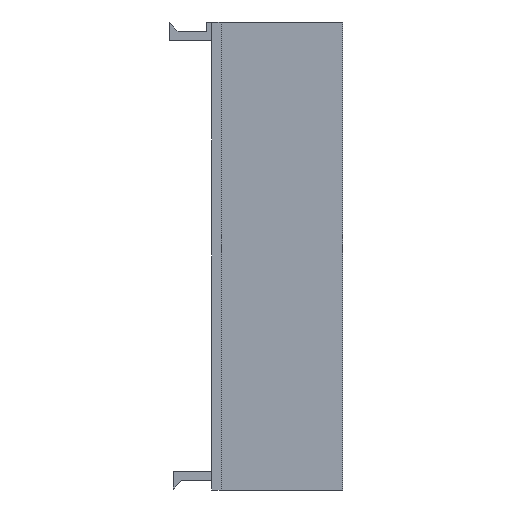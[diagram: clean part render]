
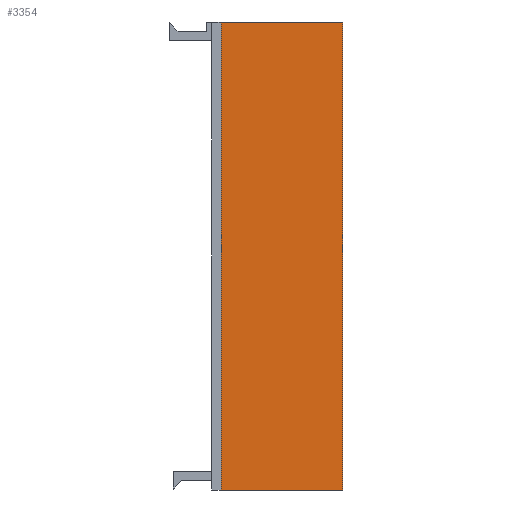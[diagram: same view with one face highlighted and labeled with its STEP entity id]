
A CAD part, left-side view. The second image highlights one B-rep face of the part: STEP entity #3354.
In plain terms, the highlighted planar face has unit normal (-1, 0, 0).
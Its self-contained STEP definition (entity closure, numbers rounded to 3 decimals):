
#113=FACE_OUTER_BOUND('',#281,.T.);
#281=EDGE_LOOP('',(#2401,#2402,#2403,#2404));
#459=LINE('',#4494,#932);
#554=LINE('',#4688,#1027);
#559=LINE('',#4698,#1032);
#560=LINE('',#4700,#1033);
#932=VECTOR('',#3671,10.);
#1027=VECTOR('',#3836,10.);
#1032=VECTOR('',#3847,10.);
#1033=VECTOR('',#3850,10.);
#1404=VERTEX_POINT('',#4491);
#1405=VERTEX_POINT('',#4493);
#1469=VERTEX_POINT('',#4686);
#1471=VERTEX_POINT('',#4696);
#1723=EDGE_CURVE('',#1404,#1405,#459,.T.);
#1822=EDGE_CURVE('',#1469,#1404,#554,.T.);
#1827=EDGE_CURVE('',#1469,#1471,#559,.T.);
#1828=EDGE_CURVE('',#1405,#1471,#560,.T.);
#2401=ORIENTED_EDGE('',*,*,#1822,.F.);
#2402=ORIENTED_EDGE('',*,*,#1827,.T.);
#2403=ORIENTED_EDGE('',*,*,#1828,.F.);
#2404=ORIENTED_EDGE('',*,*,#1723,.F.);
#3192=PLANE('',#3524);
#3354=ADVANCED_FACE('',(#113),#3192,.T.);
#3524=AXIS2_PLACEMENT_3D('',#4699,#3848,#3849);
#3671=DIRECTION('',(0.,0.,1.));
#3836=DIRECTION('',(0.,1.,0.));
#3847=DIRECTION('',(0.,0.,1.));
#3848=DIRECTION('center_axis',(-1.,0.,0.));
#3849=DIRECTION('ref_axis',(0.,-1.,0.));
#3850=DIRECTION('',(0.,-1.,0.));
#4491=CARTESIAN_POINT('',(0.,13.,0.));
#4493=CARTESIAN_POINT('',(0.,13.,50.));
#4494=CARTESIAN_POINT('',(0.,13.,0.));
#4686=CARTESIAN_POINT('',(0.,0.,0.));
#4688=CARTESIAN_POINT('',(0.,0.,0.));
#4696=CARTESIAN_POINT('',(0.,0.,50.));
#4698=CARTESIAN_POINT('',(0.,0.,0.));
#4699=CARTESIAN_POINT('Origin',(0.,13.,0.));
#4700=CARTESIAN_POINT('',(0.,0.,50.));
